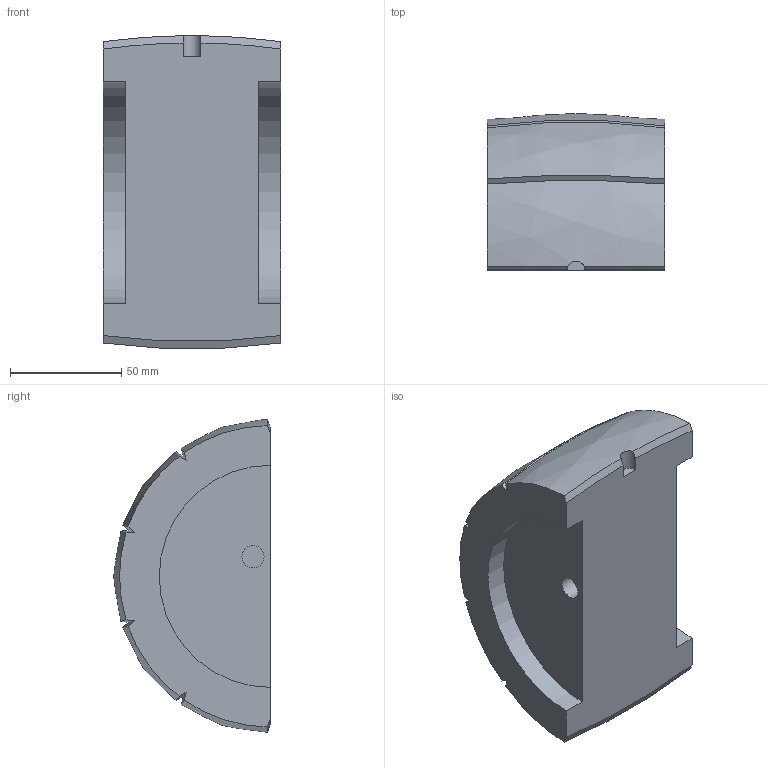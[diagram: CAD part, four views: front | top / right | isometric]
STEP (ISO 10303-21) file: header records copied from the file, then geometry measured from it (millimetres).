
FILE_DESCRIPTION(/* description */ (''),/* implementation_level */ '2;1');
FILE_NAME(/* name */ 'Mid Back.step',/* time_stamp */ '2024-01-09T11:29:52-05:00',/* author */ (''),/* organization */ (''),/* preprocessor_version */ 'ST-DEVELOPER v20',/* originating_system */ 'Autodesk Translation Framework v12.14.0.127',/* authorisation */ '');
FILE_SCHEMA (('AUTOMOTIVE_DESIGN { 1 0 10303 214 3 1 1 }'));
Length unit declared in the file: millimetre
Products named in the file (1): Mid Back
Bounding box: 80 x 70.54 x 140.74 mm (x, y, z)
Volume: 527848.3 mm3; surface area: 45996.1 mm2
Topology: 1 solids, 1 shells, 29 faces, 75 edges, 50 vertices
Faces by surface type: bspline 16, plane 8, cylinder 5
Full cylindrical faces by diameter (mm): 10 x2
Entity records: 1080 total; most frequent: CARTESIAN_POINT 432, ORIENTED_EDGE 150, DIRECTION 95, EDGE_CURVE 75, VERTEX_POINT 50, AXIS2_PLACEMENT_3D 40, B_SPLINE_CURVE_WITH_KNOTS 34, EDGE_LOOP 31
